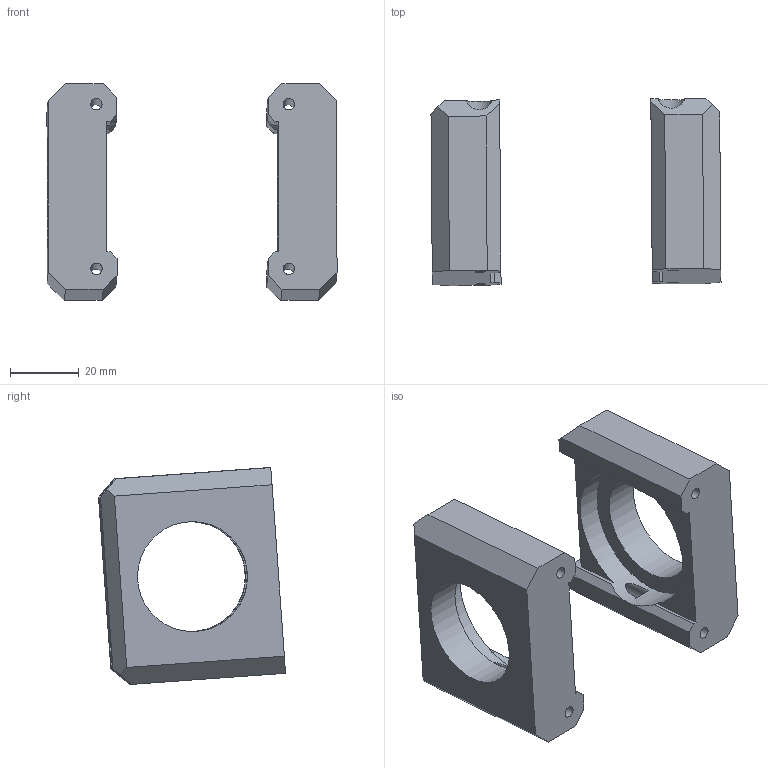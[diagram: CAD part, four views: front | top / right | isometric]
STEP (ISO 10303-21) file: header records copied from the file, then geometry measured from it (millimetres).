
FILE_DESCRIPTION(/* description */ (''),/* implementation_level */ '2;1');
FILE_NAME(/* name */ 'wrist pt2.step',/* time_stamp */ '2026-06-03T23:49:14+01:00',/* author */ (''),/* organization */ (''),/* preprocessor_version */ 'ST-DEVELOPER v20.1',/* originating_system */ 'Autodesk Translation Framework v15.8.0.0',/* authorisation */ '');
FILE_SCHEMA (('AUTOMOTIVE_DESIGN { 1 0 10303 214 3 1 1 }'));
Length unit declared in the file: millimetre
Products named in the file (1): wrist pt2
Bounding box: 84.38 x 54.39 x 63.07 mm (x, y, z)
Volume: 60753 mm3; surface area: 22698 mm2
Topology: 2 solids, 2 shells, 68 faces, 199 edges, 132 vertices
Faces by surface type: plane 54, cylinder 14
Full cylindrical faces by diameter (mm): 3.3 x4, 8 x4, 32 x2, 41.95 x2
Entity records: 2421 total; most frequent: CARTESIAN_POINT 502, ORIENTED_EDGE 398, DIRECTION 381, EDGE_CURVE 199, LINE 147, VECTOR 147, VERTEX_POINT 132, AXIS2_PLACEMENT_3D 117
